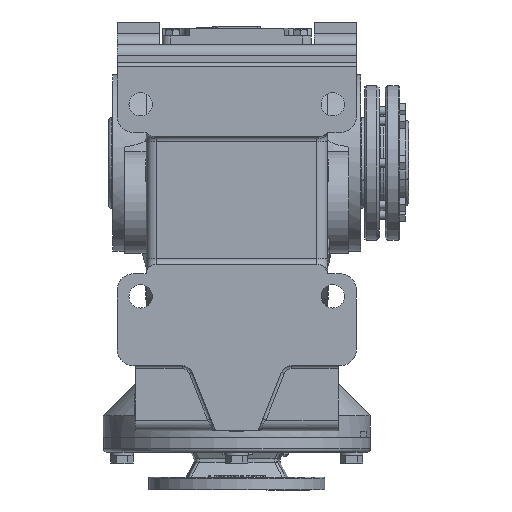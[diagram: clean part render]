
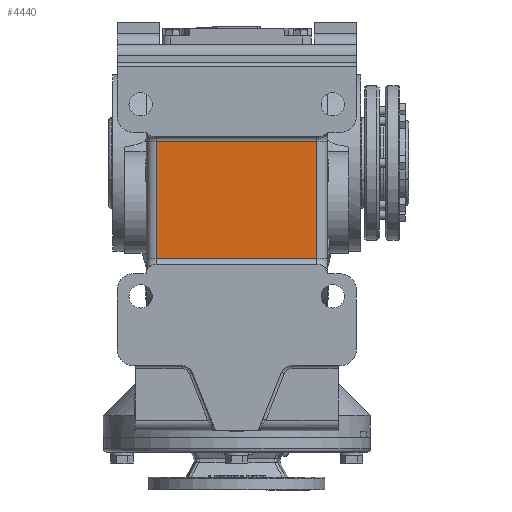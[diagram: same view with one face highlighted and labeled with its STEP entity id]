
A CAD part, front view. The second image highlights one B-rep face of the part: STEP entity #4440.
In plain terms, the highlighted planar face has unit normal (0, -1, 0).
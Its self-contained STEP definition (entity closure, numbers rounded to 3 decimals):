
#4440 = ADVANCED_FACE ( 'NONE', ( #36933 ), #24116, .T. ) ;
#9096 = EDGE_LOOP ( 'NONE', ( #39332, #39333, #39334, #39335 ) ) ;
#10878 = VERTEX_POINT ( 'NONE', #56558 ) ;
#10886 = VERTEX_POINT ( 'NONE', #56562 ) ;
#10892 = VERTEX_POINT ( 'NONE', #56565 ) ;
#10898 = VERTEX_POINT ( 'NONE', #56568 ) ;
#23685 = AXIS2_PLACEMENT_3D ( 'NONE', #24114, #24119, #24120 ) ;
#24114 = CARTESIAN_POINT ( 'NONE',  ( -112., -206., 20. ) ) ;
#24116 = PLANE ( 'NONE',  #23685 ) ;
#24119 = DIRECTION ( 'NONE',  ( 0., -1., 0. ) ) ;
#24120 = DIRECTION ( 'NONE',  ( 0., 0., -1. ) ) ;
#36933 = FACE_OUTER_BOUND ( 'NONE', #9096, .T. ) ;
#37936 = LINE ( 'NONE', #54028, #37950 ) ;
#37940 = LINE ( 'NONE', #53999, #37943 ) ;
#37943 = VECTOR ( 'NONE', #54000, 1000. ) ;
#37948 = LINE ( 'NONE', #54027, #37952 ) ;
#37950 = VECTOR ( 'NONE', #54023, 1000. ) ;
#37951 = LINE ( 'NONE', #54033, #37954 ) ;
#37952 = VECTOR ( 'NONE', #54032, 1000. ) ;
#37954 = VECTOR ( 'NONE', #54034, 1000. ) ;
#39332 = ORIENTED_EDGE ( 'NONE', *, *, #45734, .T. ) ;
#39333 = ORIENTED_EDGE ( 'NONE', *, *, #45736, .T. ) ;
#39334 = ORIENTED_EDGE ( 'NONE', *, *, #45721, .F. ) ;
#39335 = ORIENTED_EDGE ( 'NONE', *, *, #45739, .T. ) ;
#45721 = EDGE_CURVE ( 'NONE', #10892, #10878, #37940, .T. ) ;
#45734 = EDGE_CURVE ( 'NONE', #10898, #10886, #37936, .T. ) ;
#45736 = EDGE_CURVE ( 'NONE', #10886, #10878, #37948, .T. ) ;
#45739 = EDGE_CURVE ( 'NONE', #10892, #10898, #37951, .T. ) ;
#53999 = CARTESIAN_POINT ( 'NONE',  ( -112., -206., 20. ) ) ;
#54000 = DIRECTION ( 'NONE',  ( 1., 0., 0. ) ) ;
#54023 = DIRECTION ( 'NONE',  ( 1., 0., 0. ) ) ;
#54027 = CARTESIAN_POINT ( 'NONE',  ( 75., -206., 20. ) ) ;
#54028 = CARTESIAN_POINT ( 'NONE',  ( -112., -206., -90. ) ) ;
#54032 = DIRECTION ( 'NONE',  ( 0., 0., 1. ) ) ;
#54033 = CARTESIAN_POINT ( 'NONE',  ( -75., -206., -90. ) ) ;
#54034 = DIRECTION ( 'NONE',  ( 0., 0., -1. ) ) ;
#56558 = CARTESIAN_POINT ( 'NONE',  ( 75., -206., 20. ) ) ;
#56562 = CARTESIAN_POINT ( 'NONE',  ( 75., -206., -90. ) ) ;
#56565 = CARTESIAN_POINT ( 'NONE',  ( -75., -206., 20. ) ) ;
#56568 = CARTESIAN_POINT ( 'NONE',  ( -75., -206., -90. ) ) ;
